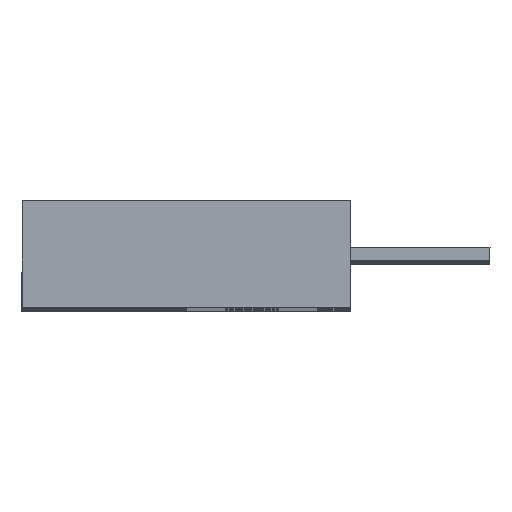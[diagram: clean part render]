
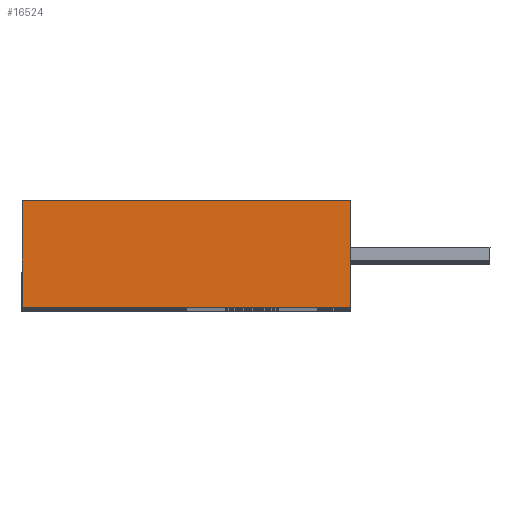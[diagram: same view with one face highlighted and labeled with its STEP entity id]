
A CAD part, top view. The second image highlights one B-rep face of the part: STEP entity #16524.
In plain terms, the highlighted planar face has unit normal (0, 0, 1).
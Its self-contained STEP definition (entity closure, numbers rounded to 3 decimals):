
#902 = PLANE ( 'NONE',  #13768 ) ;
#1197 = CARTESIAN_POINT ( 'NONE',  ( -20., 0., 0. ) ) ;
#1774 = CARTESIAN_POINT ( 'NONE',  ( 0., 6.5, 0. ) ) ;
#2714 = LINE ( 'NONE', #1197, #6850 ) ;
#2883 = VERTEX_POINT ( 'NONE', #17857 ) ;
#2914 = ORIENTED_EDGE ( 'NONE', *, *, #11913, .T. ) ;
#4077 = CARTESIAN_POINT ( 'NONE',  ( 0., 0., 0. ) ) ;
#4487 = CARTESIAN_POINT ( 'NONE',  ( -20., 0., 0. ) ) ;
#6055 = VECTOR ( 'NONE', #22459, 1000. ) ;
#6658 = VERTEX_POINT ( 'NONE', #1774 ) ;
#6850 = VECTOR ( 'NONE', #14997, 1000. ) ;
#7068 = LINE ( 'NONE', #17552, #16717 ) ;
#7271 = EDGE_CURVE ( 'NONE', #6658, #14296, #14729, .T. ) ;
#7814 = CARTESIAN_POINT ( 'NONE',  ( -20., 6.5, 0. ) ) ;
#7861 = VECTOR ( 'NONE', #21617, 1000. ) ;
#8016 = DIRECTION ( 'NONE',  ( 1., 0., 0. ) ) ;
#8166 = DIRECTION ( 'NONE',  ( 0., 0., 1. ) ) ;
#8536 = CARTESIAN_POINT ( 'NONE',  ( -20., 0., 0. ) ) ;
#9553 = FACE_OUTER_BOUND ( 'NONE', #17263, .T. ) ;
#9707 = ORIENTED_EDGE ( 'NONE', *, *, #15089, .T. ) ;
#10723 = LINE ( 'NONE', #8536, #6055 ) ;
#11913 = EDGE_CURVE ( 'NONE', #2883, #14296, #10723, .T. ) ;
#13688 = EDGE_CURVE ( 'NONE', #19250, #6658, #7068, .T. ) ;
#13768 = AXIS2_PLACEMENT_3D ( 'NONE', #4487, #8166, #8016 ) ;
#14296 = VERTEX_POINT ( 'NONE', #21734 ) ;
#14729 = LINE ( 'NONE', #4077, #7861 ) ;
#14997 = DIRECTION ( 'NONE',  ( 0., -1., 0. ) ) ;
#15089 = EDGE_CURVE ( 'NONE', #19250, #2883, #2714, .T. ) ;
#16524 = ADVANCED_FACE ( 'NONE', ( #9553 ), #902, .T. ) ;
#16717 = VECTOR ( 'NONE', #20875, 1000. ) ;
#17263 = EDGE_LOOP ( 'NONE', ( #9707, #2914, #22376, #17518 ) ) ;
#17518 = ORIENTED_EDGE ( 'NONE', *, *, #13688, .F. ) ;
#17552 = CARTESIAN_POINT ( 'NONE',  ( 0., 6.5, 0. ) ) ;
#17857 = CARTESIAN_POINT ( 'NONE',  ( -20., 0., 0. ) ) ;
#19250 = VERTEX_POINT ( 'NONE', #7814 ) ;
#20875 = DIRECTION ( 'NONE',  ( 1., 0., 0. ) ) ;
#21617 = DIRECTION ( 'NONE',  ( 0., -1., 0. ) ) ;
#21734 = CARTESIAN_POINT ( 'NONE',  ( 0., 0., 0. ) ) ;
#22376 = ORIENTED_EDGE ( 'NONE', *, *, #7271, .F. ) ;
#22459 = DIRECTION ( 'NONE',  ( 1., 0., 0. ) ) ;
